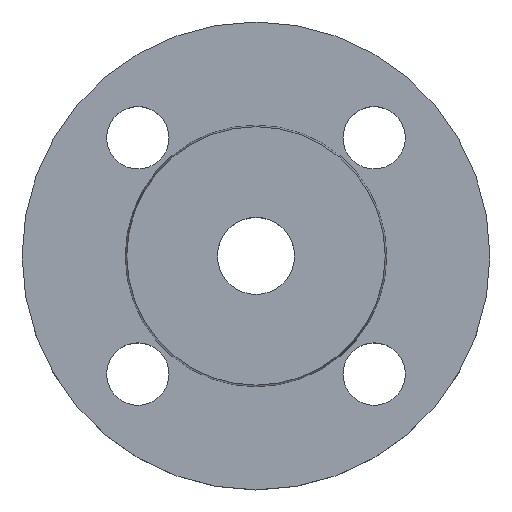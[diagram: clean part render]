
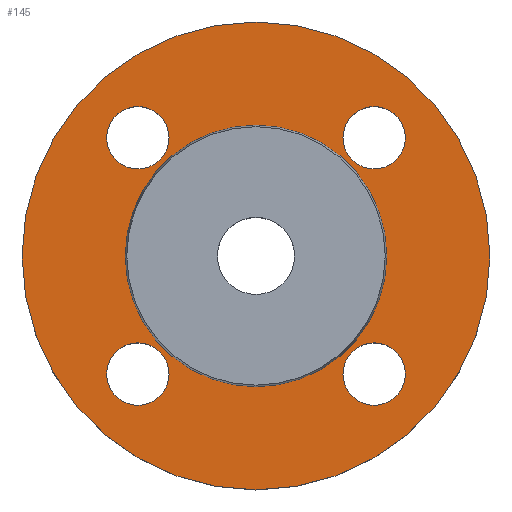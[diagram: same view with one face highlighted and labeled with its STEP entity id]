
A CAD part, top view. The second image highlights one B-rep face of the part: STEP entity #145.
In plain terms, the highlighted planar face has unit normal (0, 0, 1).
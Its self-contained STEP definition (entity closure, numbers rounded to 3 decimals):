
#11 = CIRCLE ( 'NONE', #16, 7. ) ;
#16 = AXIS2_PLACEMENT_3D ( 'NONE', #669, #670, #671 ) ;
#19 = CIRCLE ( 'NONE', #150, 29.353 ) ;
#21 = EDGE_CURVE ( 'NONE', #424, #382, #298, .T. ) ;
#40 = AXIS2_PLACEMENT_3D ( 'NONE', #123, #126, #88 ) ;
#45 = EDGE_CURVE ( 'NONE', #357, #399, #165, .T. ) ;
#48 = CIRCLE ( 'NONE', #49, 52.5 ) ;
#49 = AXIS2_PLACEMENT_3D ( 'NONE', #111, #107, #105 ) ;
#52 = CARTESIAN_POINT ( 'NONE',  ( -33.517, -26.517, -2. ) ) ;
#53 = EDGE_CURVE ( 'NONE', #538, #429, #60, .T. ) ;
#54 = CARTESIAN_POINT ( 'NONE',  ( -33.517, 26.517, -2. ) ) ;
#57 = EDGE_CURVE ( 'NONE', #545, #536, #564, .T. ) ;
#60 = CIRCLE ( 'NONE', #63, 7. ) ;
#63 = AXIS2_PLACEMENT_3D ( 'NONE', #592, #597, #598 ) ;
#73 = DIRECTION ( 'NONE',  ( -1., 0., 0. ) ) ;
#74 = DIRECTION ( 'NONE',  ( 0., 0., -1. ) ) ;
#80 = DIRECTION ( 'NONE',  ( 0., 0., -1. ) ) ;
#83 = CARTESIAN_POINT ( 'NONE',  ( 0., 0., -2. ) ) ;
#88 = DIRECTION ( 'NONE',  ( -1., 0., 0. ) ) ;
#105 = DIRECTION ( 'NONE',  ( -1., 0., 0. ) ) ;
#107 = DIRECTION ( 'NONE',  ( 0., 0., -1. ) ) ;
#111 = CARTESIAN_POINT ( 'NONE',  ( 0., 0., -2. ) ) ;
#120 = CARTESIAN_POINT ( 'NONE',  ( 0., 0., -2. ) ) ;
#123 = CARTESIAN_POINT ( 'NONE',  ( 0., 0., -2. ) ) ;
#126 = DIRECTION ( 'NONE',  ( 0., 0., -1. ) ) ;
#135 = AXIS2_PLACEMENT_3D ( 'NONE', #83, #80, #158 ) ;
#141 = CARTESIAN_POINT ( 'NONE',  ( -19.517, 26.517, -2. ) ) ;
#145 = ADVANCED_FACE ( 'NONE', ( #644, #645, #646, #647, #649, #650 ), #651, .T. ) ;
#150 = AXIS2_PLACEMENT_3D ( 'NONE', #120, #74, #73 ) ;
#158 = DIRECTION ( 'NONE',  ( -1., 0., 0. ) ) ;
#160 = EDGE_CURVE ( 'NONE', #429, #538, #11, .T. ) ;
#165 = CIRCLE ( 'NONE', #352, 7. ) ;
#176 = CIRCLE ( 'NONE', #722, 7. ) ;
#182 = AXIS2_PLACEMENT_3D ( 'NONE', #243, #244, #245 ) ;
#224 = CIRCLE ( 'NONE', #135, 52.5 ) ;
#243 = CARTESIAN_POINT ( 'NONE',  ( 26.517, -26.517, -2. ) ) ;
#244 = DIRECTION ( 'NONE',  ( 0., 0., -1. ) ) ;
#245 = DIRECTION ( 'NONE',  ( 1., 0., 0. ) ) ;
#246 = CARTESIAN_POINT ( 'NONE',  ( -26.517, 26.517, -2. ) ) ;
#247 = DIRECTION ( 'NONE',  ( 0., 0., -1. ) ) ;
#249 = DIRECTION ( 'NONE',  ( 1., 0., 0. ) ) ;
#250 = CARTESIAN_POINT ( 'NONE',  ( -29.353, 0., -2. ) ) ;
#255 = CARTESIAN_POINT ( 'NONE',  ( 19.517, 26.517, -2. ) ) ;
#256 = CARTESIAN_POINT ( 'NONE',  ( 29.353, 0., -2. ) ) ;
#258 = CARTESIAN_POINT ( 'NONE',  ( 33.517, -26.517, -2. ) ) ;
#260 = CARTESIAN_POINT ( 'NONE',  ( 52.5, 0., -2. ) ) ;
#261 = CARTESIAN_POINT ( 'NONE',  ( 33.517, 26.517, -2. ) ) ;
#264 = CARTESIAN_POINT ( 'NONE',  ( -52.5, 0., -2. ) ) ;
#266 = CARTESIAN_POINT ( 'NONE',  ( 19.517, -26.517, -2. ) ) ;
#267 = CARTESIAN_POINT ( 'NONE',  ( -19.517, -26.517, -2. ) ) ;
#283 = CARTESIAN_POINT ( 'NONE',  ( 26.517, 26.517, -2. ) ) ;
#284 = DIRECTION ( 'NONE',  ( 0., 0., -1. ) ) ;
#285 = DIRECTION ( 'NONE',  ( 1., 0., 0. ) ) ;
#298 = CIRCLE ( 'NONE', #329, 7. ) ;
#329 = AXIS2_PLACEMENT_3D ( 'NONE', #583, #585, #586 ) ;
#333 = EDGE_CURVE ( 'NONE', #382, #424, #346, .T. ) ;
#336 = EDGE_CURVE ( 'NONE', #536, #545, #339, .T. ) ;
#339 = CIRCLE ( 'NONE', #444, 7. ) ;
#341 = VERTEX_POINT ( 'NONE', #250 ) ;
#346 = CIRCLE ( 'NONE', #182, 7. ) ;
#348 = EDGE_LOOP ( 'NONE', ( #416, #417 ) ) ;
#352 = AXIS2_PLACEMENT_3D ( 'NONE', #587, #588, #589 ) ;
#353 = EDGE_LOOP ( 'NONE', ( #418, #419 ) ) ;
#357 = VERTEX_POINT ( 'NONE', #255 ) ;
#360 = VERTEX_POINT ( 'NONE', #256 ) ;
#382 = VERTEX_POINT ( 'NONE', #258 ) ;
#384 = EDGE_LOOP ( 'NONE', ( #431, #432 ) ) ;
#395 = VERTEX_POINT ( 'NONE', #260 ) ;
#399 = VERTEX_POINT ( 'NONE', #261 ) ;
#407 = VERTEX_POINT ( 'NONE', #264 ) ;
#416 = ORIENTED_EDGE ( 'NONE', *, *, #333, .T. ) ;
#417 = ORIENTED_EDGE ( 'NONE', *, *, #21, .T. ) ;
#418 = ORIENTED_EDGE ( 'NONE', *, *, #160, .T. ) ;
#419 = ORIENTED_EDGE ( 'NONE', *, *, #53, .T. ) ;
#420 = ORIENTED_EDGE ( 'NONE', *, *, #57, .T. ) ;
#422 = ORIENTED_EDGE ( 'NONE', *, *, #336, .T. ) ;
#424 = VERTEX_POINT ( 'NONE', #266 ) ;
#428 = ORIENTED_EDGE ( 'NONE', *, *, #471, .T. ) ;
#429 = VERTEX_POINT ( 'NONE', #267 ) ;
#430 = ORIENTED_EDGE ( 'NONE', *, *, #45, .T. ) ;
#431 = ORIENTED_EDGE ( 'NONE', *, *, #621, .T. ) ;
#432 = ORIENTED_EDGE ( 'NONE', *, *, #553, .T. ) ;
#433 = ORIENTED_EDGE ( 'NONE', *, *, #571, .F. ) ;
#434 = ORIENTED_EDGE ( 'NONE', *, *, #539, .F. ) ;
#444 = AXIS2_PLACEMENT_3D ( 'NONE', #246, #247, #249 ) ;
#455 = EDGE_LOOP ( 'NONE', ( #433, #434 ) ) ;
#471 = EDGE_CURVE ( 'NONE', #399, #357, #176, .T. ) ;
#476 = CIRCLE ( 'NONE', #40, 29.353 ) ;
#494 = AXIS2_PLACEMENT_3D ( 'NONE', #599, #600, #603 ) ;
#513 = EDGE_LOOP ( 'NONE', ( #420, #422 ) ) ;
#522 = EDGE_LOOP ( 'NONE', ( #428, #430 ) ) ;
#536 = VERTEX_POINT ( 'NONE', #54 ) ;
#538 = VERTEX_POINT ( 'NONE', #52 ) ;
#539 = EDGE_CURVE ( 'NONE', #407, #395, #224, .T. ) ;
#545 = VERTEX_POINT ( 'NONE', #141 ) ;
#553 = EDGE_CURVE ( 'NONE', #360, #341, #476, .T. ) ;
#564 = CIRCLE ( 'NONE', #494, 7. ) ;
#571 = EDGE_CURVE ( 'NONE', #395, #407, #48, .T. ) ;
#583 = CARTESIAN_POINT ( 'NONE',  ( 26.517, -26.517, -2. ) ) ;
#585 = DIRECTION ( 'NONE',  ( 0., 0., -1. ) ) ;
#586 = DIRECTION ( 'NONE',  ( 1., 0., 0. ) ) ;
#587 = CARTESIAN_POINT ( 'NONE',  ( 26.517, 26.517, -2. ) ) ;
#588 = DIRECTION ( 'NONE',  ( 0., 0., -1. ) ) ;
#589 = DIRECTION ( 'NONE',  ( 1., 0., 0. ) ) ;
#592 = CARTESIAN_POINT ( 'NONE',  ( -26.517, -26.517, -2. ) ) ;
#597 = DIRECTION ( 'NONE',  ( 0., 0., -1. ) ) ;
#598 = DIRECTION ( 'NONE',  ( 1., 0., 0. ) ) ;
#599 = CARTESIAN_POINT ( 'NONE',  ( -26.517, 26.517, -2. ) ) ;
#600 = DIRECTION ( 'NONE',  ( 0., 0., -1. ) ) ;
#603 = DIRECTION ( 'NONE',  ( 1., 0., 0. ) ) ;
#621 = EDGE_CURVE ( 'NONE', #341, #360, #19, .T. ) ;
#643 = AXIS2_PLACEMENT_3D ( 'NONE', #652, #653, #654 ) ;
#644 = FACE_BOUND ( 'NONE', #348, .T. ) ;
#645 = FACE_BOUND ( 'NONE', #353, .T. ) ;
#646 = FACE_BOUND ( 'NONE', #513, .T. ) ;
#647 = FACE_BOUND ( 'NONE', #522, .T. ) ;
#649 = FACE_BOUND ( 'NONE', #384, .T. ) ;
#650 = FACE_OUTER_BOUND ( 'NONE', #455, .T. ) ;
#651 = PLANE ( 'NONE',  #643 ) ;
#652 = CARTESIAN_POINT ( 'NONE',  ( 29.353, 0., -2. ) ) ;
#653 = DIRECTION ( 'NONE',  ( 0., 0., 1. ) ) ;
#654 = DIRECTION ( 'NONE',  ( 1., 0., 0. ) ) ;
#669 = CARTESIAN_POINT ( 'NONE',  ( -26.517, -26.517, -2. ) ) ;
#670 = DIRECTION ( 'NONE',  ( 0., 0., -1. ) ) ;
#671 = DIRECTION ( 'NONE',  ( 1., 0., 0. ) ) ;
#722 = AXIS2_PLACEMENT_3D ( 'NONE', #283, #284, #285 ) ;
